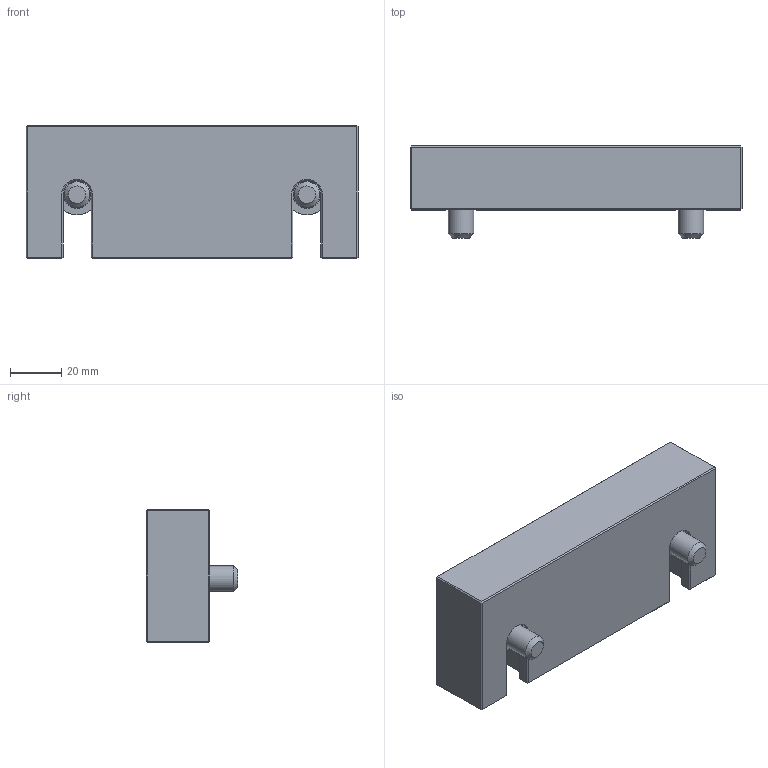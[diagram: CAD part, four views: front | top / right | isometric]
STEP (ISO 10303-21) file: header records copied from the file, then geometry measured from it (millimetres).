
FILE_DESCRIPTION(('STEP AP214'), '1');
FILE_NAME('BB.VS.130.70.010', '', ('UNSPECIFIED'), ('UNSPECIFIED'), 'C3D Converter', 'C3D Toolkit', '');
FILE_SCHEMA(('AUTOMOTIVE_DESIGN { 1 0 10303 214 3 1 1}'));
Length unit declared in the file: millimetre
Products named in the file (1): BB.VS.130.70.010 СБ
Bounding box: 130 x 36 x 52 mm (x, y, z)
Volume: 148296.6 mm3; surface area: 26687.6 mm2
Topology: 1 solids, 1 shells, 118 faces, 256 edges, 142 vertices
Faces by surface type: plane 96, cone 10, cylinder 8, torus 4
Full cylindrical faces by diameter (mm): 10 x2, 16 x2
Entity records: 4427 total; most frequent: CARTESIAN_POINT 991, DIRECTION 498, ORIENTED_EDGE 484, EDGE_CURVE 242, LINE 196, VECTOR 196, AXIS2_PLACEMENT_3D 151, VERTEX_POINT 140
